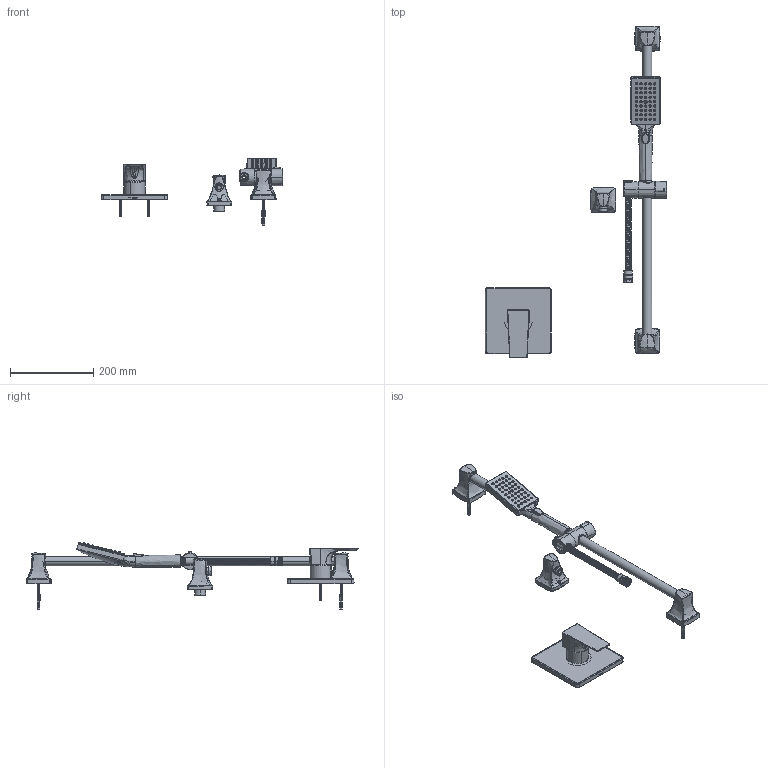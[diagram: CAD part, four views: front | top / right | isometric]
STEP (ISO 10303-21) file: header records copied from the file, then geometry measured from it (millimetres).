
FILE_DESCRIPTION (( 'STEP AP214' ), '1' );
FILE_NAME ('4993TRM.STEP', '2025-01-02T03:55:20', ( '' ), ( '' ), 'SwSTEP 2.0', 'SolidWorks 2023', '' );
FILE_SCHEMA (( 'AUTOMOTIVE_DESIGN' ));
Products named in the file (1): 4993TRM
Bounding box: 434.94 x 795.52 x 160.6 mm (x, y, z)
Surface area: 339907 mm2 (no closed solid volume)
Topology: 0 solids, 217 shells, 1499 faces, 5225 edges, 3872 vertices
Faces by surface type: bspline 435, cylinder 427, plane 335, cone 252, torus 42, sphere 8
Entity records: 202999 total; most frequent: CARTESIAN_POINT 164426, ORIENTED_EDGE 7754, DIRECTION 6245, EDGE_CURVE 5220, VERTEX_POINT 3871, AXIS2_PLACEMENT_3D 2345, B_SPLINE_CURVE_WITH_KNOTS 2279, EDGE_LOOP 1748
